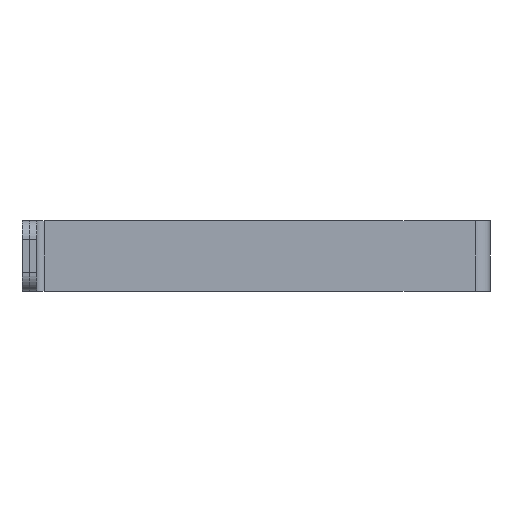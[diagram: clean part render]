
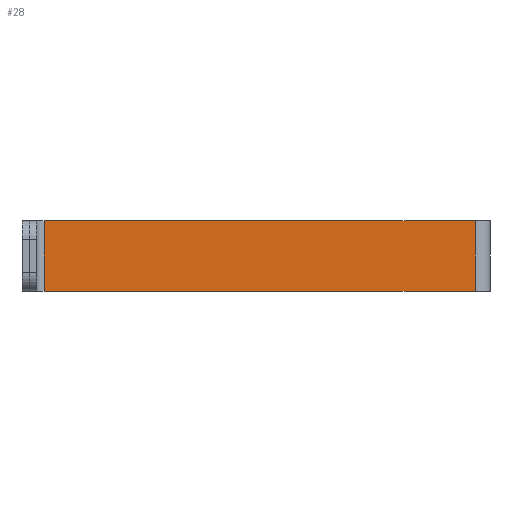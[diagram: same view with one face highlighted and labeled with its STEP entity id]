
A CAD part, front view. The second image highlights one B-rep face of the part: STEP entity #28.
In plain terms, the highlighted planar face has unit normal (0, -1, 0).
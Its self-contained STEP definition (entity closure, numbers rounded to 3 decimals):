
#28 = ADVANCED_FACE ( 'NONE', ( #502 ), #896, .F. ) ;
#49 = ORIENTED_EDGE ( 'NONE', *, *, #414, .F. ) ;
#92 = CARTESIAN_POINT ( 'NONE',  ( 4., -63., 9.5 ) ) ;
#248 = CARTESIAN_POINT ( 'NONE',  ( 4., -63., -9.5 ) ) ;
#333 = DIRECTION ( 'NONE',  ( 0., 0., 1. ) ) ;
#364 = DIRECTION ( 'NONE',  ( 0., 0., -1. ) ) ;
#371 = VECTOR ( 'NONE', #959, 1000. ) ;
#376 = VERTEX_POINT ( 'NONE', #665 ) ;
#389 = CARTESIAN_POINT ( 'NONE',  ( 4., -63., 9.5 ) ) ;
#414 = EDGE_CURVE ( 'NONE', #1513, #1060, #1618, .T. ) ;
#473 = EDGE_CURVE ( 'NONE', #1060, #376, #1470, .T. ) ;
#492 = CARTESIAN_POINT ( 'NONE',  ( 4., -63., -9.5 ) ) ;
#502 = FACE_OUTER_BOUND ( 'NONE', #973, .T. ) ;
#620 = VECTOR ( 'NONE', #1693, 1000. ) ;
#660 = ORIENTED_EDGE ( 'NONE', *, *, #473, .F. ) ;
#665 = CARTESIAN_POINT ( 'NONE',  ( 120., -63., -9.5 ) ) ;
#676 = ORIENTED_EDGE ( 'NONE', *, *, #1576, .T. ) ;
#684 = DIRECTION ( 'NONE',  ( 1., 0., 0. ) ) ;
#699 = VECTOR ( 'NONE', #684, 1000. ) ;
#842 = LINE ( 'NONE', #1687, #620 ) ;
#896 = PLANE ( 'NONE',  #1738 ) ;
#959 = DIRECTION ( 'NONE',  ( 1., 0., 0. ) ) ;
#972 = VECTOR ( 'NONE', #364, 1000. ) ;
#973 = EDGE_LOOP ( 'NONE', ( #1605, #660, #49, #676 ) ) ;
#985 = VERTEX_POINT ( 'NONE', #248 ) ;
#1060 = VERTEX_POINT ( 'NONE', #1237 ) ;
#1222 = CARTESIAN_POINT ( 'NONE',  ( 120., -63., 9.5 ) ) ;
#1237 = CARTESIAN_POINT ( 'NONE',  ( 120., -63., 9.5 ) ) ;
#1292 = EDGE_CURVE ( 'NONE', #985, #376, #1749, .T. ) ;
#1454 = DIRECTION ( 'NONE',  ( 0., 1., 0. ) ) ;
#1470 = LINE ( 'NONE', #1222, #972 ) ;
#1513 = VERTEX_POINT ( 'NONE', #1793 ) ;
#1576 = EDGE_CURVE ( 'NONE', #1513, #985, #842, .T. ) ;
#1605 = ORIENTED_EDGE ( 'NONE', *, *, #1292, .T. ) ;
#1618 = LINE ( 'NONE', #389, #371 ) ;
#1687 = CARTESIAN_POINT ( 'NONE',  ( 4., -63., 9.5 ) ) ;
#1693 = DIRECTION ( 'NONE',  ( 0., 0., -1. ) ) ;
#1738 = AXIS2_PLACEMENT_3D ( 'NONE', #92, #1454, #333 ) ;
#1749 = LINE ( 'NONE', #492, #699 ) ;
#1793 = CARTESIAN_POINT ( 'NONE',  ( 4., -63., 9.5 ) ) ;
